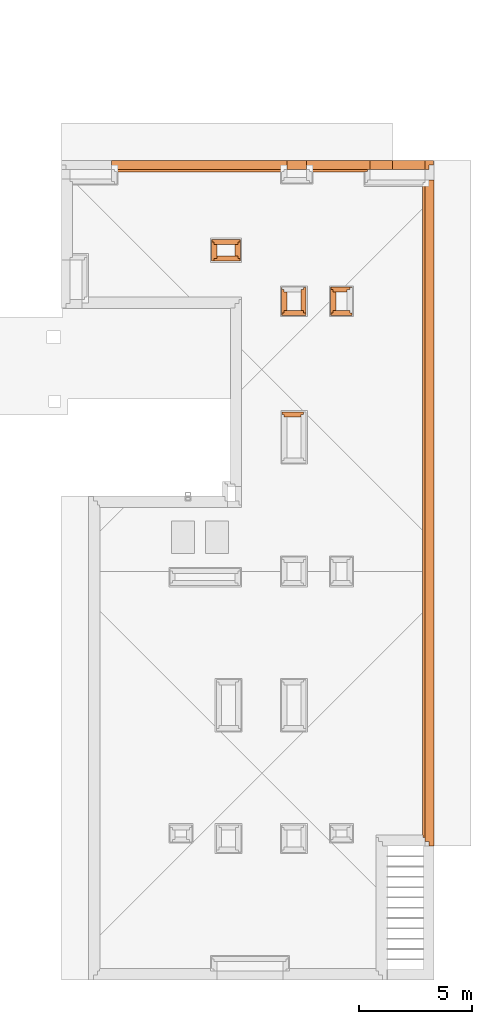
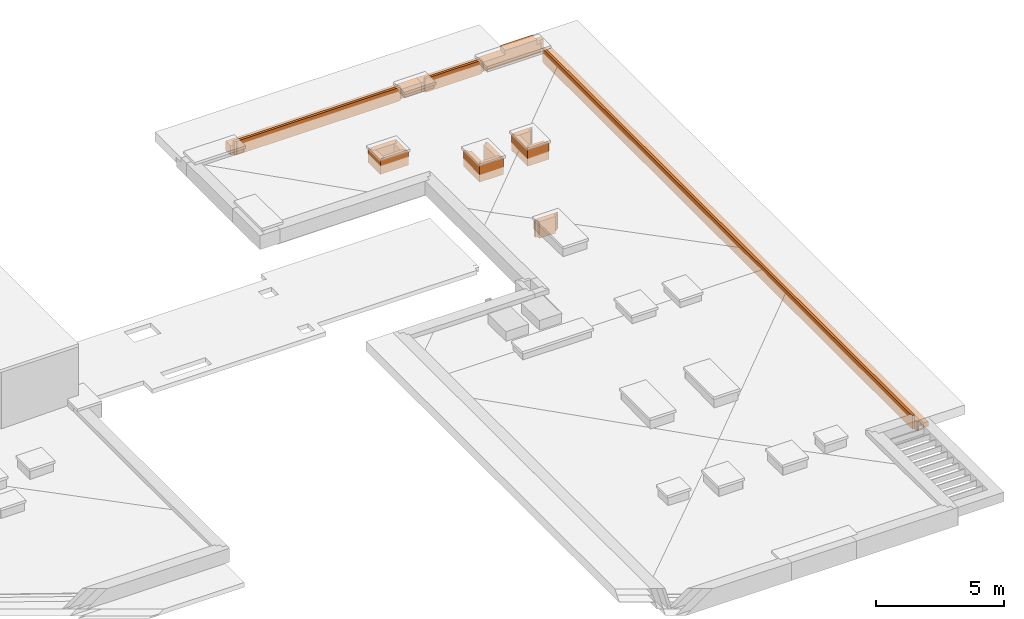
# One storey, part 15 of 16: 16 proxies.
"""IFC2X3 building model written with IfcOpenShell, lengths in millimetres."""

from ifc_helpers import new_model, entity, si_unit, converted_unit, derived_unit, money_unit, direction, frame, origin_with_axes, place, context, subcontext, project, spatial, faceted_brep, material, material_list, type_object, element, save


model = new_model("IFC2X3")

# Units and contexts
model_context = context("Model", 3, precision=0.01, world=origin_with_axes(), true_north=direction((0.34421633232, 0.938890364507)))
body_context = subcontext(model_context, "Body", "Model", "MODEL_VIEW")
ifc_project = project(units=[si_unit("LENGTHUNIT", "METRE", prefix="MILLI"), si_unit("AREAUNIT", "SQUARE_METRE"), si_unit("VOLUMEUNIT", "CUBIC_METRE"), converted_unit("PLANEANGLEUNIT", "DEGREE", entity("IfcPlaneAngleMeasure", 0.0174532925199), si_unit("PLANEANGLEUNIT", "RADIAN"), dimensions=[0, 0, 0, 0, 0, 0, 0]), si_unit("SOLIDANGLEUNIT", "STERADIAN"), money_unit("USD"), converted_unit("TIMEUNIT", "Year", entity("IfcTimeMeasure", 31556926.0), si_unit("TIMEUNIT", "SECOND"), dimensions=[0, 0, 1, 0, 0, 0, 0]), si_unit("MASSUNIT", "GRAM", prefix="KILO"), si_unit("THERMODYNAMICTEMPERATUREUNIT", "DEGREE_CELSIUS"), si_unit("LUMINOUSINTENSITYUNIT", "LUMEN"), si_unit("ENERGYUNIT", "JOULE", prefix="MEGA"), derived_unit("THERMALCONDUCTANCEUNIT", [(si_unit("POWERUNIT", "WATT"), 1), (si_unit("LENGTHUNIT", "METRE"), -1), (si_unit("THERMODYNAMICTEMPERATUREUNIT", "KELVIN"), -1)]), derived_unit("SPECIFICHEATCAPACITYUNIT", [(si_unit("ENERGYUNIT", "JOULE"), 1), (si_unit("MASSUNIT", "GRAM", prefix="KILO"), -1), (si_unit("THERMODYNAMICTEMPERATUREUNIT", "KELVIN"), -1)]), derived_unit("MASSDENSITYUNIT", [(si_unit("MASSUNIT", "GRAM", prefix="KILO"), 1), (si_unit("VOLUMEUNIT", "CUBIC_METRE"), -1)])], contexts=[model_context])

# Site, building, storey
site_placement = place(None, origin_with_axes())
site = spatial("IfcSite", under=ifc_project, at=site_placement, Name="USTRONIE MORSKIE", CompositionType="ELEMENT")
building_placement = place(site_placement, origin_with_axes())
building = spatial("IfcBuilding", under=site, at=building_placement, Name="Budynek", CompositionType="ELEMENT")
storey_placement = place(building_placement, frame((0.0, 0.0, 19000.0), z_axis=(0.0, 0.0, 1.0), x_axis=(1.0, 0.0, 0.0)))
storey = spatial("IfcBuildingStorey", under=building, at=storey_placement, Name="DACH", CompositionType="ELEMENT", Elevation=19000.0)

# Proxies
ifc_material_1 = material(Name="Tynk zewnętrzny")
ifc_material_2 = material(Name="Wełna ELEW")
ifc_material_3 = material(Name="Bloczki silikatowe")
ifc_material_list_1 = material_list([ifc_material_1, ifc_material_2, ifc_material_3, ifc_material_2, ifc_material_1])
building_element_proxy_type_1 = type_object("IfcBuildingElementProxyType", Name="18 SILIKAT+20-10 500", PredefinedType="NOTDEFINED")
proxy_1_placement = place(storey_placement, frame((419067.92182, 744801.199036, -160.0), z_axis=(0.0, 0.0, 1.0), x_axis=(1.0, 0.0, 0.0)))
element("IfcBuildingElementProxy", 1, at=proxy_1_placement, inside=storey, type_object=building_element_proxy_type_1, material=ifc_material_list_1, Name="Œciana-006", context=body_context, shape_type="Brep", body=[
    faceted_brep([(0.0, 210.0, 450.0), (2799.99909883, 210.0, 450.0), (2799.99909883, 210.0, 210.0), (2479.99909883, 210.0, 210.0), (2479.99909883, 210.0, 0.0), (0.0, 210.0, 0.0), (2799.99909883, 200.0, 450.0), (0.0, 200.0, 450.0), (2799.99909883, 200.0, 210.0), (2479.99909883, 200.0, 210.0), (2479.99909883, 200.0, 0.0), (0.0, 200.0, 0.0)], [[[0, 1, 2, 3, 4, 5]], [[6, 1, 0, 7]], [[1, 6, 8, 2]], [[8, 9, 3, 2]], [[10, 4, 3, 9]], [[5, 4, 10, 11]], [[7, 0, 5, 11]], [[6, 7, 11, 10, 9, 8]]]),
    faceted_brep([(0.0, 200.0, 450.0), (2799.99909883, 200.0, 450.0), (2799.99909883, 200.0, 210.0), (2679.99909883, 200.0, 210.0), (2679.99909883, 200.0, 0.0), (0.0, 200.0, 0.0), (2799.99909883, 0.0, 450.0), (0.0, 0.0, 450.0), (2799.99909883, 0.0, 210.0), (2679.99909883, 0.0, 210.0), (2679.99909883, 0.0, 0.0), (0.0, 0.0, 0.0)], [[[0, 1, 2, 3, 4, 5]], [[6, 1, 0, 7]], [[1, 6, 8, 2]], [[9, 3, 2, 8]], [[10, 4, 3, 9]], [[5, 4, 10, 11]], [[7, 0, 5, 11]], [[6, 7, 11, 10, 9, 8]]]),
    faceted_brep([(0.0, 0.0, 450.0), (2799.99909883, 0.0, 450.0), (2799.99909883, 0.0, 0.0), (0.0, 0.0, 0.0), (2799.99909883, -180.0, 450.0), (0.0, -180.0, 450.0), (2799.99909883, -180.0, 0.0), (0.0, -180.0, 0.0)], [[[0, 1, 2, 3]], [[4, 1, 0, 5]], [[1, 4, 6, 2]], [[7, 3, 2, 6]], [[5, 0, 3, 7]], [[4, 5, 7, 6]]]),
    faceted_brep([(2679.99909883, -280.0, 5.0), (2679.99909883, -180.0, 5.0), (2679.99909883, -180.0, 660.0), (2679.99909883, -280.0, 660.0), (120.0, -180.0, 5.0), (120.0, -280.0, 5.0), (120.0, -180.0, 660.0), (120.0, -280.0, 660.0)], [[[0, 1, 2, 3]], [[4, 1, 0, 5]], [[1, 4, 6, 2]], [[7, 3, 2, 6]], [[5, 0, 3, 7]], [[4, 5, 7, 6]]]),
    faceted_brep([(2579.99909883, -290.0, 5.0), (2579.99909883, -280.0, 5.0), (2579.99909883, -280.0, 660.0), (2579.99909883, -290.0, 660.0), (220.0, -280.0, 5.0), (220.0, -290.0, 5.0), (220.0, -280.0, 660.0), (220.0, -290.0, 660.0)], [[[0, 1, 2, 3]], [[4, 1, 0, 5]], [[1, 4, 6, 2]], [[7, 3, 2, 6]], [[5, 0, 3, 7]], [[4, 5, 7, 6]]]),
])
proxy_2_placement = place(storey_placement, frame((410477.940089, 744801.199036, -160.0), z_axis=(0.0, 0.0, 1.0), x_axis=(1.0, 0.0, 0.0)))
element("IfcBuildingElementProxy", 2, at=proxy_2_placement, inside=storey, type_object=building_element_proxy_type_1, material=ifc_material_list_1, Name="Œciana-006", context=body_context, shape_type="Brep", body=[
    faceted_brep([(0.0, 210.0, 450.0), (7719.98083036, 210.0, 450.0), (7719.98083036, 210.0, 0.0), (6459.98000061, 210.0, 0.0), (6459.98000061, 210.0, 210.0), (6139.98000061, 210.0, 210.0), (6139.98000061, 210.0, 0.0), (5639.98085203, 210.0, 0.0), (5639.98085203, 210.0, 210.0), (5319.98085203, 210.0, 210.0), (5319.98085203, 210.0, 0.0), (0.0, 210.0, 0.0), (7719.98083036, 200.0, 450.0), (0.0, 200.0, 450.0), (7719.98083036, 200.0, 0.0), (6459.98000061, 200.0, 0.0), (6459.98000061, 200.0, 210.0), (6139.98000061, 200.0, 210.0), (6139.98000061, 200.0, 0.0), (5639.98085203, 200.0, 0.0), (5639.98085203, 200.0, 210.0), (5319.98085203, 200.0, 210.0), (5319.98085203, 200.0, 0.0), (0.0, 200.0, 0.0)], [[[0, 1, 2, 3, 4, 5, 6, 7, 8, 9, 10, 11]], [[12, 1, 0, 13]], [[1, 12, 14, 2]], [[14, 15, 3, 2]], [[16, 4, 3, 15]], [[5, 4, 16, 17]], [[18, 6, 5, 17]], [[18, 19, 7, 6]], [[20, 8, 7, 19]], [[8, 20, 21, 9]], [[22, 10, 9, 21]], [[11, 10, 22, 23]], [[13, 0, 11, 23]], [[12, 13, 23, 22, 21, 20, 19, 18, 17, 16, 15, 14]]]),
    faceted_brep([(0.0, 200.0, 450.0), (7719.98083036, 200.0, 450.0), (7719.98083036, 200.0, 0.0), (6259.98000061, 200.0, 0.0), (6259.98000061, 200.0, 210.0), (6139.98000061, 200.0, 210.0), (6139.98000061, 200.0, 0.0), (5639.98085203, 200.0, 0.0), (5639.98085203, 200.0, 210.0), (5519.98085203, 200.0, 210.0), (5519.98085203, 200.0, 0.0), (0.0, 200.0, 0.0), (7719.98083036, 0.0, 450.0), (0.0, 0.0, 450.0), (7719.98083036, 0.0, 0.0), (6259.98000061, 0.0, 0.0), (6259.98000061, 0.0, 210.0), (6139.98000061, 0.0, 210.0), (6139.98000061, 0.0, 0.0), (5639.98085203, 0.0, 0.0), (5639.98085203, 0.0, 210.0), (5519.98085203, 0.0, 210.0), (5519.98085203, 0.0, 0.0), (0.0, 0.0, 0.0)], [[[0, 1, 2, 3, 4, 5, 6, 7, 8, 9, 10, 11]], [[12, 1, 0, 13]], [[1, 12, 14, 2]], [[14, 15, 3, 2]], [[16, 4, 3, 15]], [[17, 5, 4, 16]], [[18, 6, 5, 17]], [[18, 19, 7, 6]], [[20, 8, 7, 19]], [[21, 9, 8, 20]], [[22, 10, 9, 21]], [[11, 10, 22, 23]], [[13, 0, 11, 23]], [[12, 13, 23, 22, 21, 20, 19, 18, 17, 16, 15, 14]]]),
    faceted_brep([(0.0, 0.0, 450.0), (7719.98083036, 0.0, 450.0), (7719.98083036, 0.0, 0.0), (0.0, 0.0, 0.0), (7719.98083036, -180.0, 450.0), (0.0, -180.0, 450.0), (7719.98083036, -180.0, 0.0), (0.0, -180.0, 0.0)], [[[0, 1, 2, 3]], [[4, 1, 0, 5]], [[1, 4, 6, 2]], [[6, 7, 3, 2]], [[5, 0, 3, 7]], [[4, 5, 7, 6]]]),
    faceted_brep([(7599.98083036, -280.0, 5.0), (7599.98083036, -180.0, 5.0), (7599.98083036, -180.0, 660.0), (7599.98083036, -280.0, 660.0), (119.999998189, -180.0, 5.0), (119.999998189, -280.0, 5.0), (119.999998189, -180.0, 660.0), (119.999998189, -280.0, 660.0)], [[[0, 1, 2, 3]], [[4, 1, 0, 5]], [[1, 4, 6, 2]], [[2, 6, 7, 3]], [[5, 0, 3, 7]], [[4, 5, 7, 6]]]),
    faceted_brep([(7499.98083036, -290.0, 5.0), (7499.98083036, -280.0, 5.0), (7499.98083036, -280.0, 660.0), (7499.98083036, -290.0, 660.0), (219.999998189, -280.0, 5.0), (219.999998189, -290.0, 5.0), (219.999998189, -280.0, 660.0), (219.999998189, -290.0, 660.0)], [[[0, 1, 2, 3]], [[4, 1, 0, 5]], [[1, 4, 6, 2]], [[2, 6, 7, 3]], [[5, 0, 3, 7]], [[4, 5, 7, 6]]]),
])
proxy_3_placement = place(storey_placement, frame((424467.920919, 715001.199036, -160.0), z_axis=(0.0, 0.0, 1.0), x_axis=(0.0, 1.0, 0.0)))
element("IfcBuildingElementProxy", 3, at=proxy_3_placement, inside=storey, type_object=building_element_proxy_type_1, material=ifc_material_list_1, Name="Œciana-006", context=body_context, shape_type="Brep", body=[
    faceted_brep([(280.0, 280.0, 5.0), (28930.0, 280.0, 5.0), (28930.0, 280.0, 660.0), (280.0, 280.0, 660.0), (28930.0, 290.0, 5.0), (280.0, 290.0, 5.0), (28930.0, 290.0, 660.0), (280.0, 290.0, 660.0)], [[[0, 1, 2, 3]], [[4, 1, 0, 5]], [[1, 4, 6, 2]], [[3, 2, 6, 7]], [[5, 0, 3, 7]], [[4, 5, 7, 6]]]),
    faceted_brep([(180.0, 180.0, 5.0), (29030.0, 180.0, 5.0), (29030.0, 180.0, 660.0), (180.0, 180.0, 660.0), (29030.0, 280.0, 5.0), (180.0, 280.0, 5.0), (29030.0, 280.0, 660.0), (180.0, 280.0, 660.0)], [[[0, 1, 2, 3]], [[4, 1, 0, 5]], [[1, 4, 6, 2]], [[3, 2, 6, 7]], [[5, 0, 3, 7]], [[4, 5, 7, 6]]]),
    faceted_brep([(29150.0, 180.0, 450.0), (29150.0, 0.0, 450.0), (29150.0, 0.0, 0.0), (29150.0, 180.0, 0.0), (-1.13686837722e-10, 0.0, 450.0), (0.0, 180.0, 450.0), (-2.27373675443e-10, 0.0, 210.000000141), (200.0, 0.0, 210.000000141), (200.0, 0.0, 0.0), (5900.00898274, 0.0, 0.0), (5900.00898274, 0.0, 190.0), (6100.00898274, 0.0, 190.0), (6100.00898274, 0.0, 0.0), (200.0, 100.0, 0.0), (-2.27373675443e-10, 100.0, 0.0), (0.0, 180.0, 0.0), (6100.00898274, 100.0, 0.0), (5900.00898274, 100.0, 0.0), (-2.27373675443e-10, 100.0, 210.000000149), (200.0, 100.0, 210.000000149), (5900.00898274, 100.0, 190.0), (6100.00898274, 100.0, 190.0)], [[[0, 1, 2, 3]], [[4, 1, 0, 5]], [[1, 4, 6, 7, 8, 9, 10, 11, 12, 2]], [[8, 13, 14, 15, 3, 2, 12, 16, 17, 9]], [[5, 0, 3, 15]], [[4, 5, 15, 14, 18, 6]], [[19, 7, 6, 18]], [[13, 8, 7, 19]], [[20, 10, 9, 17]], [[21, 11, 10, 20]], [[16, 12, 11, 21]], [[18, 14, 13, 19]], [[20, 17, 16, 21]]]),
    faceted_brep([(29150.0, 0.0, 450.0), (29150.0, -200.0, 450.0), (29150.0, -200.0, 0.0), (29150.0, 0.0, 0.0), (-200.0, -200.0, 450.0), (-200.0, 0.0, 450.0), (-200.0, -200.0, 210.000000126), (250.0, -200.0, 210.000000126), (250.0, -200.0, 0.0), (5900.00898274, -200.0, 0.0), (5900.00898274, -200.0, 190.0), (6100.00898274, -200.0, 190.0), (6100.00898274, -200.0, 0.0), (6100.00898274, 0.0, 0.0), (6100.00898274, 0.0, 190.0), (5900.00898274, 0.0, 190.0), (5900.00898274, 0.0, 0.0), (250.0, 0.0, 0.0), (250.0, 0.0, 210.000000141), (-200.0, 0.0, 210.000000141)], [[[0, 1, 2, 3]], [[4, 1, 0, 5]], [[1, 4, 6, 7, 8, 9, 10, 11, 12, 2]], [[2, 12, 13, 3]], [[5, 0, 3, 13, 14, 15, 16, 17, 18, 19]], [[4, 5, 19, 6]], [[18, 7, 6, 19]], [[17, 8, 7, 18]], [[9, 8, 17, 16]], [[15, 10, 9, 16]], [[14, 11, 10, 15]], [[13, 12, 11, 14]]]),
    faceted_brep([(29150.0, -200.0, 450.0), (29150.0, -210.0, 450.0), (29150.0, -210.0, 0.0), (29150.0, -200.0, 0.0), (-210.0, -210.0, 450.0), (-210.0, -200.0, 450.0), (-210.0, -210.0, 210.000000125), (260.0, -210.0, 210.000000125), (260.0, -210.0, 0.0), (5900.00898274, -210.0, 0.0), (5900.00898274, -210.0, 190.0), (6100.00898274, -210.0, 190.0), (6100.00898274, -210.0, 0.0), (6100.00898274, -200.0, 0.0), (6100.00898274, -200.0, 190.0), (5900.00898274, -200.0, 190.0), (5900.00898274, -200.0, 0.0), (260.0, -200.0, 0.0), (260.0, -200.0, 210.000000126), (-210.0, -200.0, 210.000000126)], [[[0, 1, 2, 3]], [[4, 1, 0, 5]], [[1, 4, 6, 7, 8, 9, 10, 11, 12, 2]], [[2, 12, 13, 3]], [[5, 0, 3, 13, 14, 15, 16, 17, 18, 19]], [[4, 5, 19, 6]], [[7, 6, 19, 18]], [[17, 8, 7, 18]], [[9, 8, 17, 16]], [[15, 10, 9, 16]], [[14, 11, 10, 15]], [[13, 12, 11, 14]]]),
])
ifc_material_list_2 = material_list([ifc_material_3, ifc_material_2, ifc_material_1])
building_element_proxy_type_2 = type_object("IfcBuildingElementProxyType", Name="12+10 kominy 230", PredefinedType="NOTDEFINED")
proxy_4_placement = place(storey_placement, frame((418197.920919, 739201.205592, -160.0), z_axis=(0.0, 0.0, 1.0), x_axis=(0.0, -1.0, 0.0)))
element("IfcBuildingElementProxy", 4, at=proxy_4_placement, inside=storey, type_object=building_element_proxy_type_2, material=ifc_material_list_2, Name="Œciana-006", context=body_context, shape_type="Brep", body=[
    faceted_brep([(800.0, 0.0, 0.0), (800.0, -120.0, 0.0), (0.0, -120.0, 0.0), (0.0, 0.0, 0.0), (800.0, 0.0, 800.000001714), (800.0, -120.0, 800.000001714), (0.0, -120.0, 800.000001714), (0.0, 0.0, 800.000001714)], [[[0, 1, 2, 3]], [[1, 0, 4, 5]], [[1, 5, 6, 2]], [[7, 3, 2, 6]], [[4, 0, 3, 7]], [[5, 4, 7, 6]]]),
    faceted_brep([(920.0, -120.0, 5.0), (-120.0, -120.0, 5.0), (-120.0, -120.0, 800.000001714), (920.0, -120.0, 800.000001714), (-120.0, -220.0, 5.0), (920.0, -220.0, 5.0), (-120.0, -220.0, 800.000001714), (920.0, -220.0, 800.000001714)], [[[0, 1, 2, 3]], [[4, 1, 0, 5]], [[1, 4, 6, 2]], [[7, 3, 2, 6]], [[5, 0, 3, 7]], [[4, 5, 7, 6]]]),
    faceted_brep([(1020.0, -220.0, 5.0), (-220.0, -220.0, 5.0), (-220.0, -220.0, 800.000001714), (1020.0, -220.0, 800.000001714), (-220.0, -230.0, 5.0), (1020.0, -230.0, 5.0), (-220.0, -230.0, 800.000001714), (1020.0, -230.0, 800.000001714)], [[[0, 1, 2, 3]], [[4, 1, 0, 5]], [[1, 4, 6, 2]], [[7, 3, 2, 6]], [[5, 0, 3, 7]], [[4, 5, 7, 6]]]),
])
proxy_5_placement = place(storey_placement, frame((418197.920919, 738401.205592, -160.0), z_axis=(0.0, 0.0, 1.0), x_axis=(1.0, 0.0, 0.0)))
element("IfcBuildingElementProxy", 5, at=proxy_5_placement, inside=storey, type_object=building_element_proxy_type_2, material=ifc_material_list_2, Name="Œciana-006", context=body_context, shape_type="Brep", body=[
    faceted_brep([(740.0, 0.0, 0.0), (740.0, -120.0, 0.0), (-120.0, -120.0, 0.0), (-120.0, 0.0, 0.0), (740.0, 0.0, 800.000001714), (740.0, -120.0, 800.000001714), (-120.0, -120.0, 800.000001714), (-120.0, 0.0, 800.000001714)], [[[0, 1, 2, 3]], [[1, 0, 4, 5]], [[1, 5, 6, 2]], [[7, 3, 2, 6]], [[4, 0, 3, 7]], [[5, 4, 7, 6]]]),
    faceted_brep([(840.0, -220.0, 5.0), (840.0, -120.0, 5.0), (840.0, -120.0, 800.000001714), (840.0, -220.0, 800.000001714), (-220.0, -120.0, 5.0), (-220.0, -220.0, 5.0), (-220.0, -120.0, 800.000001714), (-220.0, -220.0, 800.000001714)], [[[0, 1, 2, 3]], [[4, 1, 0, 5]], [[1, 4, 6, 2]], [[3, 2, 6, 7]], [[5, 0, 3, 7]], [[4, 5, 7, 6]]]),
    faceted_brep([(850.0, -230.0, 5.0), (850.0, -220.0, 5.0), (850.0, -220.0, 800.000001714), (850.0, -230.0, 800.000001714), (-230.0, -220.0, 5.0), (-230.0, -230.0, 5.0), (-230.0, -220.0, 800.000001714), (-230.0, -230.0, 800.000001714)], [[[0, 1, 2, 3]], [[4, 1, 0, 5]], [[1, 4, 6, 2]], [[3, 2, 6, 7]], [[5, 0, 3, 7]], [[4, 5, 7, 6]]]),
])
proxy_6_placement = place(storey_placement, frame((415917.920941, 741301.180377, -160.0), z_axis=(0.0, 0.0, 1.0), x_axis=(-1.0, 0.0, 0.0)))
element("IfcBuildingElementProxy", 6, at=proxy_6_placement, inside=storey, type_object=building_element_proxy_type_2, material=ifc_material_list_2, Name="Œciana-006", context=body_context, shape_type="Brep", body=[
    faceted_brep([(920.001816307, 0.0, 0.0), (920.001816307, -120.0, 0.0), (-120.0, -120.0, 0.0), (-120.0, 0.0, 0.0), (920.001816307, 0.0, 660.0), (920.001816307, -120.0, 660.0), (-120.0, -120.0, 660.0), (-120.0, 0.0, 660.0)], [[[0, 1, 2, 3]], [[1, 0, 4, 5]], [[1, 5, 6, 2]], [[7, 3, 2, 6]], [[4, 0, 3, 7]], [[5, 4, 7, 6]]]),
    faceted_brep([(-220.0, -120.0, 5.0), (-220.0, -220.0, 5.0), (-220.0, -220.0, 660.0), (-220.0, -120.0, 660.0), (1020.00181631, -220.0, 5.0), (1020.00181631, -120.0, 5.0), (1020.00181631, -220.0, 660.0), (1020.00181631, -120.0, 660.0)], [[[0, 1, 2, 3]], [[4, 1, 0, 5]], [[1, 4, 6, 2]], [[6, 7, 3, 2]], [[5, 0, 3, 7]], [[4, 5, 7, 6]]]),
    faceted_brep([(-230.0, -220.0, 5.0), (-230.0, -230.0, 5.0), (-230.0, -230.0, 660.0), (-230.0, -220.0, 660.0), (1030.00181631, -230.0, 5.0), (1030.00181631, -220.0, 5.0), (1030.00181631, -230.0, 660.0), (1030.00181631, -220.0, 660.0)], [[[0, 1, 2, 3]], [[4, 1, 0, 5]], [[1, 4, 6, 2]], [[6, 7, 3, 2]], [[5, 0, 3, 7]], [[4, 5, 7, 6]]]),
])
proxy_7_placement = place(storey_placement, frame((418817.920919, 738401.205592, -160.0), z_axis=(0.0, 0.0, 1.0), x_axis=(0.0, 1.0, 0.0)))
element("IfcBuildingElementProxy", 7, at=proxy_7_placement, inside=storey, type_object=building_element_proxy_type_2, material=ifc_material_list_2, Name="Œciana-006", context=body_context, shape_type="Brep", body=[
    faceted_brep([(920.0, 0.0, 0.0), (920.0, -120.0, 0.0), (0.0, -120.0, 0.0), (0.0, 0.0, 0.0), (920.0, 0.0, 800.000001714), (920.0, -120.0, 800.000001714), (0.0, -120.0, 800.000001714), (0.0, 0.0, 800.000001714)], [[[0, 1, 2, 3]], [[1, 0, 4, 5]], [[1, 5, 6, 2]], [[7, 3, 2, 6]], [[4, 0, 3, 7]], [[5, 4, 7, 6]]]),
    faceted_brep([(-120.0, -220.0, 5.0), (1020.0, -220.0, 5.0), (1020.0, -220.0, 800.000001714), (-120.0, -220.0, 800.000001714), (1020.0, -120.0, 5.0), (-120.0, -120.0, 5.0), (1020.0, -120.0, 800.000001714), (-120.0, -120.0, 800.000001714)], [[[0, 1, 2, 3]], [[4, 1, 0, 5]], [[1, 4, 6, 2]], [[2, 6, 7, 3]], [[5, 0, 3, 7]], [[4, 5, 7, 6]]]),
    faceted_brep([(-220.0, -230.0, 5.0), (1030.0, -230.0, 5.0), (1030.0, -230.0, 800.000001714), (-220.0, -230.0, 800.000001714), (1030.0, -220.0, 5.0), (-220.0, -220.0, 5.0), (1030.0, -220.0, 800.000001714), (-220.0, -220.0, 800.000001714)], [[[0, 1, 2, 3]], [[4, 1, 0, 5]], [[1, 4, 6, 2]], [[2, 6, 7, 3]], [[5, 0, 3, 7]], [[4, 5, 7, 6]]]),
])
proxy_8_placement = place(storey_placement, frame((420857.919335, 739201.195166, -160.0), z_axis=(0.0, 0.0, 1.0), x_axis=(-1.0, 0.0, 0.0)))
element("IfcBuildingElementProxy", 8, at=proxy_8_placement, inside=storey, type_object=building_element_proxy_type_2, material=ifc_material_list_2, Name="Œciana-006", context=body_context, shape_type="Brep", body=[
    faceted_brep([(619.998416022, 0.0, 0.0), (619.998416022, -120.0, 0.0), (0.0, -120.0, 0.0), (0.0, 0.0, 0.0), (619.998416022, 0.0, 800.000001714), (619.998416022, -120.0, 800.000001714), (0.0, -120.0, 800.000001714), (0.0, 0.0, 800.000001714)], [[[0, 1, 2, 3]], [[1, 0, 4, 5]], [[1, 5, 6, 2]], [[7, 3, 2, 6]], [[4, 0, 3, 7]], [[5, 4, 7, 6]]]),
    faceted_brep([(-120.0, -120.0, 5.0), (-120.0, -220.0, 5.0), (-120.0, -220.0, 800.000001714), (-120.0, -120.0, 800.000001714), (719.998416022, -220.0, 5.0), (719.998416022, -120.0, 5.0), (719.998416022, -220.0, 800.000001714), (719.998416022, -120.0, 800.000001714)], [[[0, 1, 2, 3]], [[4, 1, 0, 5]], [[1, 4, 6, 2]], [[6, 7, 3, 2]], [[5, 0, 3, 7]], [[4, 5, 7, 6]]]),
    faceted_brep([(-220.0, -220.0, 5.0), (-220.0, -230.0, 5.0), (-220.0, -230.0, 800.000001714), (-220.0, -220.0, 800.000001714), (729.998416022, -230.0, 5.0), (729.998416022, -220.0, 5.0), (729.998416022, -230.0, 800.000001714), (729.998416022, -220.0, 800.000001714)], [[[0, 1, 2, 3]], [[4, 1, 0, 5]], [[1, 4, 6, 2]], [[6, 7, 3, 2]], [[5, 0, 3, 7]], [[4, 5, 7, 6]]]),
])
ifc_material_list_3 = material_list([ifc_material_1, ifc_material_2, ifc_material_3])
proxy_9_placement = place(storey_placement, frame((415917.920941, 741301.180377, -160.0), z_axis=(0.0, 0.0, 1.0), x_axis=(0.0, -1.0, 0.0)))
element("IfcBuildingElementProxy", 9, at=proxy_9_placement, inside=storey, type_object=building_element_proxy_type_2, material=ifc_material_list_3, Name="Œciana-006", context=body_context, shape_type="Brep", body=[
    faceted_brep([(720.00090117, 230.0, 5.0), (-220.0, 230.0, 5.0), (-220.0, 230.0, 660.0), (720.00090117, 230.0, 660.0), (-220.0, 220.0, 5.0), (720.00090117, 220.0, 5.0), (-220.0, 220.0, 660.0), (720.00090117, 220.0, 660.0)], [[[0, 1, 2, 3]], [[4, 1, 0, 5]], [[1, 4, 6, 2]], [[7, 3, 2, 6]], [[5, 0, 3, 7]], [[4, 5, 7, 6]]]),
    faceted_brep([(620.00090117, 220.0, 5.0), (-120.0, 220.0, 5.0), (-120.0, 220.0, 660.0), (620.00090117, 220.0, 660.0), (-120.0, 120.0, 5.0), (620.00090117, 120.0, 5.0), (-120.0, 120.0, 660.0), (620.00090117, 120.0, 660.0)], [[[0, 1, 2, 3]], [[4, 1, 0, 5]], [[1, 4, 6, 2]], [[7, 3, 2, 6]], [[5, 0, 3, 7]], [[4, 5, 7, 6]]]),
    faceted_brep([(500.00090117, 0.0, 660.0), (500.00090117, 120.0, 660.0), (0.0, 120.0, 660.0), (0.0, 0.0, 660.0), (500.00090117, 0.0, 0.0), (500.00090117, 120.0, 0.0), (0.0, 120.0, 0.0), (0.0, 0.0, 0.0)], [[[0, 1, 2, 3]], [[1, 0, 4, 5]], [[1, 5, 6, 2]], [[7, 3, 2, 6]], [[4, 0, 3, 7]], [[5, 4, 7, 6]]]),
])
proxy_10_placement = place(storey_placement, frame((415917.920941, 740801.179476, -160.0), z_axis=(0.0, 0.0, 1.0), x_axis=(-1.0, 0.0, 0.0)))
element("IfcBuildingElementProxy", 10, at=proxy_10_placement, inside=storey, type_object=building_element_proxy_type_2, material=ifc_material_list_3, Name="Œciana-006", context=body_context, shape_type="Brep", body=[
    faceted_brep([(-230.0, 230.0, 5.0), (-230.0, 220.0, 5.0), (-230.0, 220.0, 660.0), (-230.0, 230.0, 660.0), (1020.00181631, 220.0, 5.0), (1020.00181631, 230.0, 5.0), (1020.00181631, 220.0, 660.0), (1020.00181631, 230.0, 660.0)], [[[0, 1, 2, 3]], [[4, 1, 0, 5]], [[1, 4, 6, 2]], [[6, 7, 3, 2]], [[5, 0, 3, 7]], [[4, 5, 7, 6]]]),
    faceted_brep([(-220.0, 220.0, 5.0), (-220.0, 120.0, 5.0), (-220.0, 120.0, 660.0), (-220.0, 220.0, 660.0), (920.001816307, 120.0, 5.0), (920.001816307, 220.0, 5.0), (920.001816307, 120.0, 660.0), (920.001816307, 220.0, 660.0)], [[[0, 1, 2, 3]], [[4, 1, 0, 5]], [[1, 4, 6, 2]], [[6, 7, 3, 2]], [[5, 0, 3, 7]], [[4, 5, 7, 6]]]),
    faceted_brep([(800.001816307, 0.0, 660.0), (800.001816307, 120.0, 660.0), (-120.0, 120.0, 660.0), (-120.0, 0.0, 660.0), (800.001816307, 0.0, 0.0), (800.001816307, 120.0, 0.0), (-120.0, 120.0, 0.0), (-120.0, 0.0, 0.0)], [[[0, 1, 2, 3]], [[1, 0, 4, 5]], [[1, 5, 6, 2]], [[7, 3, 2, 6]], [[4, 0, 3, 7]], [[5, 4, 7, 6]]]),
])
proxy_11_placement = place(storey_placement, frame((418817.920919, 733701.199036, -160.0), z_axis=(0.0, 0.0, 1.0), x_axis=(-1.0, 0.0, 0.0)))
element("IfcBuildingElementProxy", 11, at=proxy_11_placement, inside=storey, type_object=building_element_proxy_type_2, material=ifc_material_list_2, Name="Œciana-006", context=body_context, shape_type="Brep", body=[
    faceted_brep([(740.0, 0.0, 0.0), (740.0, -120.0, 0.0), (0.0, -120.0, 0.0), (0.0, 0.0, 0.0), (740.0, 0.0, 800.000001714), (740.0, -120.0, 800.000001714), (0.0, -120.0, 800.000001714), (0.0, 0.0, 800.000001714)], [[[0, 1, 2, 3]], [[1, 0, 4, 5]], [[1, 5, 6, 2]], [[7, 3, 2, 6]], [[4, 0, 3, 7]], [[5, 4, 7, 6]]]),
    faceted_brep([(-120.0, -120.0, 5.0), (-120.0, -220.0, 5.0), (-120.0, -220.0, 800.000001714), (-120.0, -120.0, 800.000001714), (840.0, -220.0, 5.0), (840.0, -120.0, 5.0), (840.0, -220.0, 800.000001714), (840.0, -120.0, 800.000001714)], [[[0, 1, 2, 3]], [[4, 1, 0, 5]], [[1, 4, 6, 2]], [[6, 7, 3, 2]], [[5, 0, 3, 7]], [[4, 5, 7, 6]]]),
    faceted_brep([(-220.0, -220.0, 5.0), (-220.0, -230.0, 5.0), (-220.0, -230.0, 800.000001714), (-220.0, -220.0, 800.000001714), (850.0, -230.0, 5.0), (850.0, -220.0, 5.0), (850.0, -230.0, 800.000001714), (850.0, -220.0, 800.000001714)], [[[0, 1, 2, 3]], [[4, 1, 0, 5]], [[1, 4, 6, 2]], [[6, 7, 3, 2]], [[5, 0, 3, 7]], [[4, 5, 7, 6]]]),
])
proxy_12_placement = place(storey_placement, frame((420357.920919, 738401.179881, -160.0), z_axis=(0.0, 0.0, 1.0), x_axis=(1.0, 0.0, 0.0)))
element("IfcBuildingElementProxy", 12, at=proxy_12_placement, inside=storey, type_object=building_element_proxy_type_2, material=ifc_material_list_2, Name="Œciana-006", context=body_context, shape_type="Brep", body=[
    faceted_brep([(619.998416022, 0.0, 0.0), (619.998416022, -120.0, 0.0), (-120.0, -120.0, 0.0), (-120.0, 0.0, 0.0), (619.998416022, 0.0, 800.000001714), (619.998416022, -120.0, 800.000001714), (-120.0, -120.0, 800.000001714), (-120.0, 0.0, 800.000001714)], [[[0, 1, 2, 3]], [[1, 0, 4, 5]], [[1, 5, 6, 2]], [[7, 3, 2, 6]], [[4, 0, 3, 7]], [[5, 4, 7, 6]]]),
    faceted_brep([(719.998416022, -220.0, 5.0), (719.998416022, -120.0, 5.0), (719.998416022, -120.0, 800.000001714), (719.998416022, -220.0, 800.000001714), (-220.0, -120.0, 5.0), (-220.0, -220.0, 5.0), (-220.0, -120.0, 800.000001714), (-220.0, -220.0, 800.000001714)], [[[0, 1, 2, 3]], [[4, 1, 0, 5]], [[1, 4, 6, 2]], [[3, 2, 6, 7]], [[5, 0, 3, 7]], [[4, 5, 7, 6]]]),
    faceted_brep([(729.998416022, -230.0, 5.0), (729.998416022, -220.0, 5.0), (729.998416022, -220.0, 800.000001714), (729.998416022, -230.0, 800.000001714), (-230.0, -220.0, 5.0), (-230.0, -230.0, 5.0), (-230.0, -220.0, 800.000001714), (-230.0, -230.0, 800.000001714)], [[[0, 1, 2, 3]], [[4, 1, 0, 5]], [[1, 4, 6, 2]], [[3, 2, 6, 7]], [[5, 0, 3, 7]], [[4, 5, 7, 6]]]),
])
proxy_13_placement = place(storey_placement, frame((420357.920919, 739201.195166, -160.0), z_axis=(0.0, 0.0, 1.0), x_axis=(0.0, -1.0, 0.0)))
element("IfcBuildingElementProxy", 13, at=proxy_13_placement, inside=storey, type_object=building_element_proxy_type_2, material=ifc_material_list_2, Name="Œciana-006", context=body_context, shape_type="Brep", body=[
    faceted_brep([(800.015284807, 0.0, 0.0), (800.015284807, -120.0, 0.0), (0.0, -120.0, 0.0), (0.0, 0.0, 0.0), (800.015284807, 0.0, 800.000001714), (800.015284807, -120.0, 800.000001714), (0.0, -120.0, 800.000001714), (0.0, 0.0, 800.000001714)], [[[0, 1, 2, 3]], [[1, 0, 4, 5]], [[1, 5, 6, 2]], [[7, 3, 2, 6]], [[4, 0, 3, 7]], [[5, 4, 7, 6]]]),
    faceted_brep([(920.015284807, -120.0, 5.0), (-120.0, -120.0, 5.0), (-120.0, -120.0, 800.000001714), (920.015284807, -120.0, 800.000001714), (-120.0, -220.0, 5.0), (920.015284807, -220.0, 5.0), (-120.0, -220.0, 800.000001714), (920.015284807, -220.0, 800.000001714)], [[[0, 1, 2, 3]], [[4, 1, 0, 5]], [[1, 4, 6, 2]], [[7, 3, 2, 6]], [[5, 0, 3, 7]], [[4, 5, 7, 6]]]),
    faceted_brep([(1020.01528481, -220.0, 5.0), (-220.0, -220.0, 5.0), (-220.0, -220.0, 800.000001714), (1020.01528481, -220.0, 800.000001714), (-220.0, -230.0, 5.0), (1020.01528481, -230.0, 5.0), (-220.0, -230.0, 800.000001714), (1020.01528481, -230.0, 800.000001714)], [[[0, 1, 2, 3]], [[4, 1, 0, 5]], [[1, 4, 6, 2]], [[7, 3, 2, 6]], [[5, 0, 3, 7]], [[4, 5, 7, 6]]]),
])
proxy_14_placement = place(storey_placement, frame((415117.919124, 741301.180377, -160.0), z_axis=(0.0, 0.0, 1.0), x_axis=(0.0, -1.0, 0.0)))
element("IfcBuildingElementProxy", 14, at=proxy_14_placement, inside=storey, type_object=building_element_proxy_type_2, material=ifc_material_list_2, Name="Œciana-006", context=body_context, shape_type="Brep", body=[
    faceted_brep([(620.00090117, 0.0, 0.0), (620.00090117, -120.0, 0.0), (0.0, -120.0, 0.0), (0.0, 0.0, 0.0), (620.00090117, 0.0, 660.0), (620.00090117, -120.0, 660.0), (0.0, -120.0, 660.0), (0.0, 0.0, 660.0)], [[[0, 1, 2, 3]], [[1, 0, 4, 5]], [[1, 5, 6, 2]], [[7, 3, 2, 6]], [[4, 0, 3, 7]], [[5, 4, 7, 6]]]),
    faceted_brep([(720.00090117, -120.0, 5.0), (-120.0, -120.0, 5.0), (-120.0, -120.0, 660.0), (720.00090117, -120.0, 660.0), (-120.0, -220.0, 5.0), (720.00090117, -220.0, 5.0), (-120.0, -220.0, 660.0), (720.00090117, -220.0, 660.0)], [[[0, 1, 2, 3]], [[4, 1, 0, 5]], [[1, 4, 6, 2]], [[7, 3, 2, 6]], [[5, 0, 3, 7]], [[4, 5, 7, 6]]]),
    faceted_brep([(730.00090117, -220.0, 5.0), (-220.0, -220.0, 5.0), (-220.0, -220.0, 660.0), (730.00090117, -220.0, 660.0), (-220.0, -230.0, 5.0), (730.00090117, -230.0, 5.0), (-220.0, -230.0, 660.0), (730.00090117, -230.0, 660.0)], [[[0, 1, 2, 3]], [[4, 1, 0, 5]], [[1, 4, 6, 2]], [[7, 3, 2, 6]], [[5, 0, 3, 7]], [[4, 5, 7, 6]]]),
])
building_element_proxy_type_3 = type_object("IfcBuildingElementProxyType", Name="18 SILIKAT+20 390", PredefinedType="NOTDEFINED")
proxy_15_placement = place(storey_placement, frame((418197.920919, 744801.199036, -160.0), z_axis=(0.0, 0.0, 1.0), x_axis=(1.0, 0.0, 0.0)))
element("IfcBuildingElementProxy", 15, at=proxy_15_placement, inside=storey, type_object=building_element_proxy_type_3, material=ifc_material_list_3, Name="Œciana-006", context=body_context, shape_type="Brep", body=[
    faceted_brep([(0.0, 210.0, 450.0), (870.00090117, 210.0, 450.0), (870.00090117, 210.0, 0.0), (0.0, 210.0, 0.0), (870.00090117, 200.0, 450.0), (0.0, 200.0, 450.0), (870.00090117, 200.0, 0.0), (0.0, 200.0, 0.0)], [[[0, 1, 2, 3]], [[4, 1, 0, 5]], [[1, 4, 6, 2]], [[3, 2, 6, 7]], [[5, 0, 3, 7]], [[4, 5, 7, 6]]]),
    faceted_brep([(0.0, 200.0, 450.0), (870.00090117, 200.0, 450.0), (870.00090117, 200.0, 0.0), (0.0, 200.0, 0.0), (870.00090117, 0.0, 450.0), (0.0, 0.0, 450.0), (870.00090117, 0.0, 0.0), (0.0, 0.0, 0.0)], [[[0, 1, 2, 3]], [[4, 1, 0, 5]], [[1, 4, 6, 2]], [[3, 2, 6, 7]], [[5, 0, 3, 7]], [[4, 5, 7, 6]]]),
    faceted_brep([(0.0, 0.0, 450.0), (870.00090117, 0.0, 450.0), (870.00090117, 0.0, 0.0), (0.0, 0.0, 0.0), (870.00090117, -180.0, 450.0), (0.0, -180.0, 450.0), (870.00090117, -180.0, 0.0), (0.0, -180.0, 0.0)], [[[0, 1, 2, 3]], [[4, 1, 0, 5]], [[1, 4, 6, 2]], [[3, 2, 6, 7]], [[5, 0, 3, 7]], [[4, 5, 7, 6]]]),
])
proxy_16_placement = place(storey_placement, frame((421867.920919, 744801.199036, -160.0), z_axis=(0.0, 0.0, 1.0), x_axis=(1.0, 0.0, 0.0)))
element("IfcBuildingElementProxy", 16, at=proxy_16_placement, inside=storey, type_object=building_element_proxy_type_3, material=ifc_material_list_3, Name="Œciana-006", context=body_context, shape_type="Brep", body=[
    faceted_brep([(2420.0, 210.000000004, 650.0), (2420.0, 210.000000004, 450.0), (2810.0, 210.000000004, 450.0), (2810.0, 210.0, 0.0), (970.0, 210.0, 0.0), (970.0, 210.0, 210.0), (650.0, 210.0, 210.0), (650.0, 210.0, 0.0), (0.0, 210.0, 0.0), (0.0, 210.0, 450.0), (980.0, 210.0, 450.0), (980.0, 210.0, 650.0), (980.0, 210.0, 660.0), (2420.0, 210.000000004, 660.0), (2420.0, 200.0, 650.0), (2420.0, 200.0, 450.0), (2810.0, 200.0, 450.0), (2810.0, 200.0, 0.0), (970.0, 200.0, 0.0), (970.0, 200.0, 210.0), (650.0, 200.0, 210.0), (650.0, 200.0, 0.0), (0.0, 200.0, 0.0), (0.0, 200.0, 450.0), (980.0, 200.0, 450.0), (980.0, 200.0, 650.0), (980.0, 200.0, 660.0), (2420.0, 200.0, 660.0)], [[[0, 1, 2, 3, 4, 5, 6, 7, 8, 9, 10, 11, 12, 13]], [[1, 0, 14, 15]], [[16, 2, 1, 15]], [[2, 16, 17, 3]], [[17, 18, 4, 3]], [[19, 5, 4, 18]], [[6, 5, 19, 20]], [[21, 7, 6, 20]], [[8, 7, 21, 22]], [[23, 9, 8, 22]], [[10, 9, 23, 24]], [[25, 11, 10, 24]], [[11, 25, 26, 12]], [[27, 13, 12, 26]], [[14, 0, 13, 27]], [[15, 14, 27, 26, 25, 24, 23, 22, 21, 20, 19, 18, 17, 16]]]),
    faceted_brep([(2420.0, 200.0, 450.0), (2800.0, 200.0, 450.0), (2800.0, 200.0, 0.0), (770.0, 200.0, 0.0), (770.0, 200.0, 210.0), (650.0, 200.0, 210.0), (650.0, 200.0, 0.0), (0.0, 200.0, 0.0), (0.0, 200.0, 450.0), (980.0, 200.0, 450.0), (980.0, 200.0, 660.0), (2420.0, 200.0, 660.0), (2800.0, 0.0, 450.0), (2420.0, 0.0, 450.0), (2800.0, 0.0, 0.0), (770.0, 0.0, 0.0), (770.0, 0.0, 210.0), (650.0, 0.0, 210.0), (650.0, 0.0, 0.0), (0.0, 0.0, 0.0), (0.0, 0.0, 450.0), (980.0, 0.0, 450.0), (980.0, 0.0, 660.0), (2420.0, 0.0, 660.0)], [[[0, 1, 2, 3, 4, 5, 6, 7, 8, 9, 10, 11]], [[12, 1, 0, 13]], [[1, 12, 14, 2]], [[14, 15, 3, 2]], [[16, 4, 3, 15]], [[17, 5, 4, 16]], [[18, 6, 5, 17]], [[7, 6, 18, 19]], [[20, 8, 7, 19]], [[9, 8, 20, 21]], [[10, 9, 21, 22]], [[23, 11, 10, 22]], [[13, 0, 11, 23]], [[13, 23, 22, 21, 20, 19, 18, 17, 16, 15, 14, 12]]]),
    faceted_brep([(2420.0, 0.0, 450.0), (2600.0, 0.0, 450.0), (2600.0, 0.0, 0.0), (0.0, 0.0, 0.0), (0.0, 0.0, 450.0), (980.0, 0.0, 450.0), (980.0, 0.0, 660.0), (2420.0, 0.0, 660.0), (2600.0, -180.0, 450.0), (2420.0, -180.0, 450.0), (2600.0, -180.0, 0.0), (0.0, -180.0, 0.0), (0.0, -180.0, 450.0), (980.0, -180.0, 450.0), (980.0, -180.0, 660.0), (2420.0, -180.0, 660.0)], [[[0, 1, 2, 3, 4, 5, 6, 7]], [[8, 1, 0, 9]], [[1, 8, 10, 2]], [[2, 10, 11, 3]], [[12, 4, 3, 11]], [[5, 4, 12, 13]], [[6, 5, 13, 14]], [[15, 7, 6, 14]], [[9, 0, 7, 15]], [[9, 15, 14, 13, 12, 11, 10, 8]]]),
])

save(model, "model.ifc")
